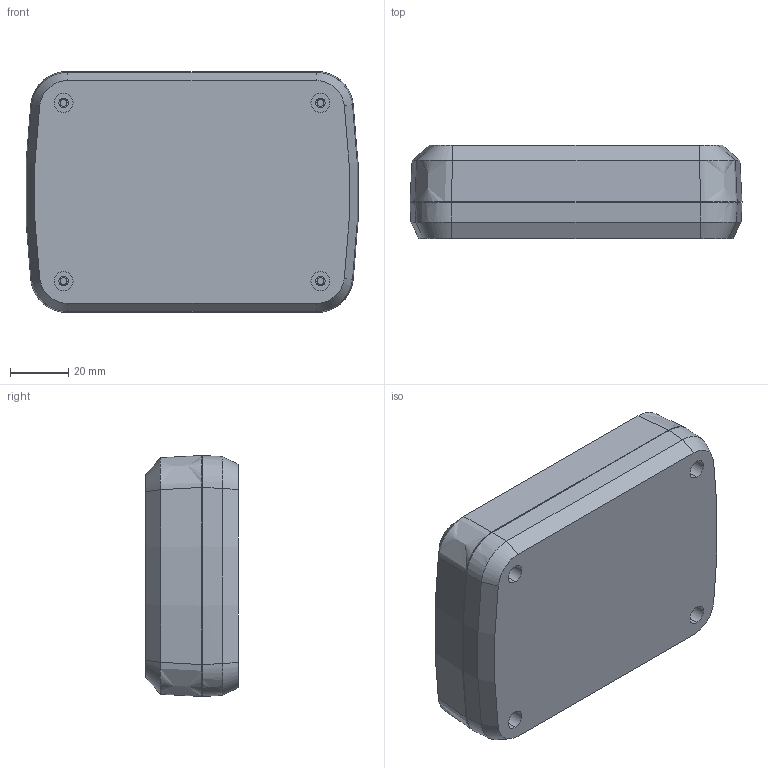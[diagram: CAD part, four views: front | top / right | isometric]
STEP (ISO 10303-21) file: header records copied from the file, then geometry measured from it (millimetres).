
FILE_DESCRIPTION (( 'STEP AP203' ), '1' );
FILE_NAME ('HH-046.STEP', '2016-03-09T06:33:34', ( 'admin' ), ( 'Hewlett-Packard Company' ), 'SwSTEP 2.0', 'SolidWorks 2014', '' );
FILE_SCHEMA (( 'CONFIG_CONTROL_DESIGN' ));
Length unit declared in the file: millimetre
Products named in the file (3): HH-046-P-2-G-0; HH-046-P-1-G-0; HH-046
Assembly tree (2 placements, depth 2):
  HH-046
    HH-046-P-2-G-0
    HH-046-P-1-G-0
Bounding box: 113.98 x 31.9 x 82.7 mm (x, y, z)
Volume: 69820.7 mm3; surface area: 74511.3 mm2
Topology: 3 solids, 3 shells, 245 faces, 578 edges, 368 vertices
Faces by surface type: plane 83, bspline 62, cone 52, cylinder 48
Entity records: 11763 total; most frequent: CARTESIAN_POINT 6170, ORIENTED_EDGE 1156, DIRECTION 974, EDGE_CURVE 578, AXIS2_PLACEMENT_3D 396, VERTEX_POINT 368, EDGE_LOOP 290, FACE_OUTER_BOUND 245
